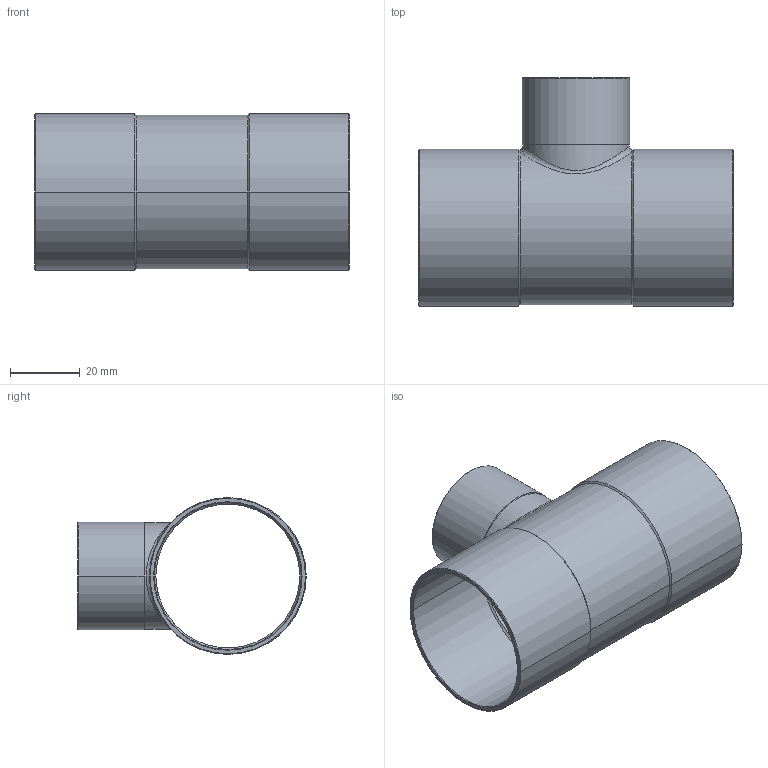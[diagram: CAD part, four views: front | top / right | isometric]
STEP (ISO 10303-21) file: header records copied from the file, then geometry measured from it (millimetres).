
FILE_DESCRIPTION((''),'2;1');
FILE_NAME('G:\Technics\CAD\Bauteile\15130\15130422842.stp','2005-11-02T10:19:52',('boden'),(''),'Autodesk Inventor 8','Autodesk Inventor 8','');
FILE_SCHEMA(('AUTOMOTIVE_DESIGN { 1 0 10303 214 1 1 1 1 }'));
Length unit declared in the file: millimetre
Products named in the file (1): 15130422842
Bounding box: 90 x 65.47 x 44.95 mm (x, y, z)
Volume: 19306 mm3; surface area: 27977.1 mm2
Topology: 1 solids, 1 shells, 49 faces, 112 edges, 64 vertices
Faces by surface type: cone 24, cylinder 20, plane 3, bspline 2
Entity records: 1847 total; most frequent: CARTESIAN_POINT 726, DIRECTION 238, ORIENTED_EDGE 224, EDGE_CURVE 112, AXIS2_PLACEMENT_3D 98, VERTEX_POINT 64, EDGE_LOOP 52, CIRCLE 50
